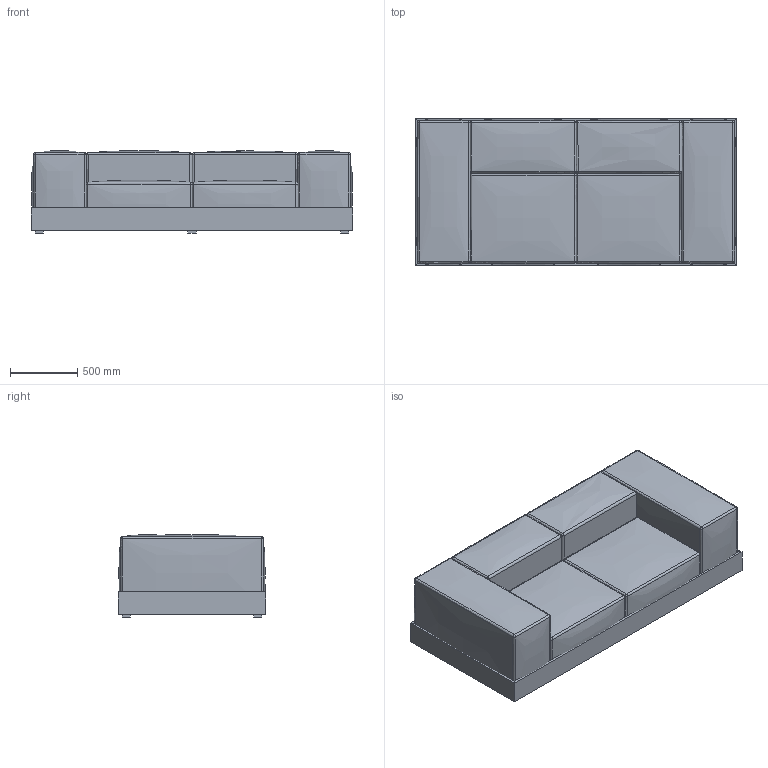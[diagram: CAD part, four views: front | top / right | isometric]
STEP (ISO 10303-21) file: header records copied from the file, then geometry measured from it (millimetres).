
FILE_DESCRIPTION(/* description */ (''),/* implementation_level */ '2;1');
FILE_NAME(/* name */ 'Polp1 240 brl.step',/* time_stamp */ '2024-01-07T10:09:44+01:00',/* author */ (''),/* organization */ (''),/* preprocessor_version */ 'ST-DEVELOPER v20',/* originating_system */ 'Autodesk Translation Framework v12.14.0.127',/* authorisation */ '');
FILE_SCHEMA (('AUTOMOTIVE_DESIGN { 1 0 10303 214 3 1 1 }'));
Length unit declared in the file: millimetre
Products named in the file (7): Polp1 240 brl; Component1; Component2; Component5; Component6; Component7; Component8
Assembly tree (6 placements, depth 2):
  Polp1 240 brl
    Component1
    Component2
    Component5
    Component6
    Component7
    Component8
Bounding box: 2400 x 1100 x 615 mm (x, y, z)
Volume: 1252903754.3 mm3; surface area: 20566637.4 mm2
Topology: 22 solids, 22 shells, 252 faces, 482 edges, 272 vertices
Faces by surface type: plane 110, bspline 82, sphere 48, cylinder 12
Entity records: 15869 total; most frequent: CARTESIAN_POINT 11017, ORIENTED_EDGE 960, DIRECTION 870, EDGE_CURVE 480, AXIS2_PLACEMENT_3D 327, VERTEX_POINT 272, FACE_OUTER_BOUND 252, EDGE_LOOP 252
